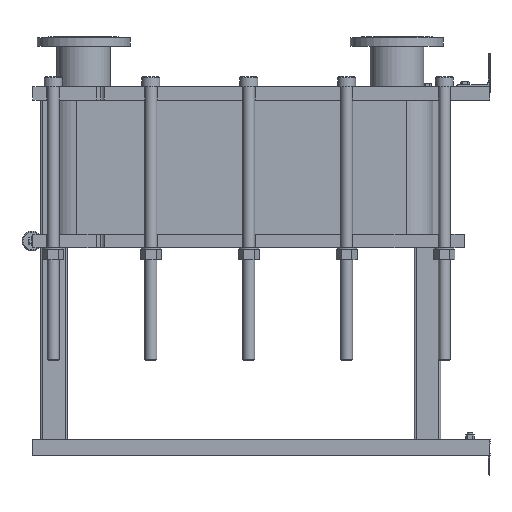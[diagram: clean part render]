
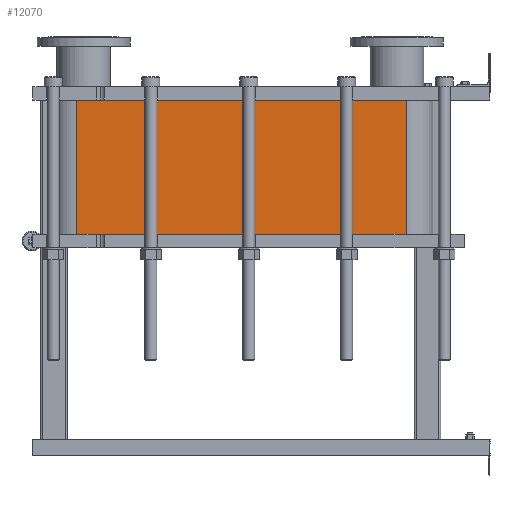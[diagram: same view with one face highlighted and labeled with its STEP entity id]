
A CAD part, left-side view. The second image highlights one B-rep face of the part: STEP entity #12070.
In plain terms, the highlighted planar face has unit normal (-1, 0, 0).
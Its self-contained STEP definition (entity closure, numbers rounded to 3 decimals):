
#1064=LINE('',#21140,#2164);
#1065=LINE('',#21144,#2165);
#1066=LINE('',#21146,#2166);
#1067=LINE('',#21147,#2167);
#2164=VECTOR('',#15790,10.);
#2165=VECTOR('',#15795,10.);
#2166=VECTOR('',#15796,10.);
#2167=VECTOR('',#15797,10.);
#3304=FACE_OUTER_BOUND('',#4091,.T.);
#4091=EDGE_LOOP('',(#9793,#9794,#9795,#9796));
#5677=VERTEX_POINT('',#21137);
#5678=VERTEX_POINT('',#21139);
#5679=VERTEX_POINT('',#21143);
#5680=VERTEX_POINT('',#21145);
#7118=EDGE_CURVE('',#5678,#5677,#1064,.T.);
#7120=EDGE_CURVE('',#5677,#5679,#1065,.T.);
#7121=EDGE_CURVE('',#5680,#5679,#1066,.T.);
#7122=EDGE_CURVE('',#5680,#5678,#1067,.T.);
#9793=ORIENTED_EDGE('',*,*,#7120,.T.);
#9794=ORIENTED_EDGE('',*,*,#7121,.F.);
#9795=ORIENTED_EDGE('',*,*,#7122,.T.);
#9796=ORIENTED_EDGE('',*,*,#7118,.T.);
#11441=PLANE('',#13191);
#12070=ADVANCED_FACE('',(#3304),#11441,.T.);
#13191=AXIS2_PLACEMENT_3D('',#21142,#15793,#15794);
#15790=DIRECTION('',(0.,0.,-1.));
#15793=DIRECTION('center_axis',(-1.,0.,0.));
#15794=DIRECTION('ref_axis',(0.,1.,0.));
#15795=DIRECTION('',(0.,-1.,0.));
#15796=DIRECTION('',(0.,0.,-1.));
#15797=DIRECTION('',(0.,1.,0.));
#21137=CARTESIAN_POINT('',(-248.152,1243.818,-403.65));
#21139=CARTESIAN_POINT('',(-248.152,1243.818,0.));
#21140=CARTESIAN_POINT('',(-248.152,1243.818,0.));
#21142=CARTESIAN_POINT('Origin',(-248.152,251.818,0.));
#21143=CARTESIAN_POINT('',(-248.152,251.818,-403.65));
#21144=CARTESIAN_POINT('',(-248.152,499.818,-403.65));
#21145=CARTESIAN_POINT('',(-248.152,251.818,0.));
#21146=CARTESIAN_POINT('',(-248.152,251.818,0.));
#21147=CARTESIAN_POINT('',(-248.152,251.818,0.));
